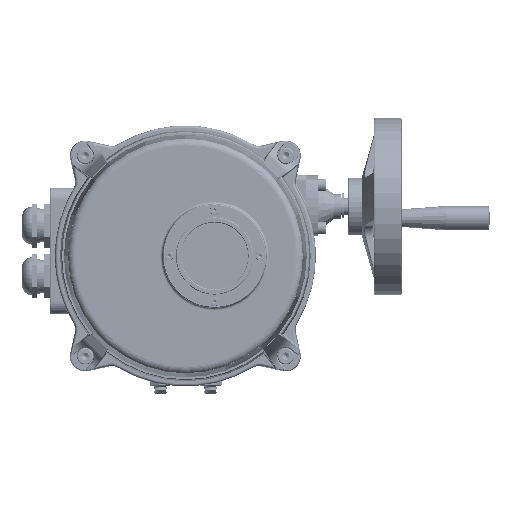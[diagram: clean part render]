
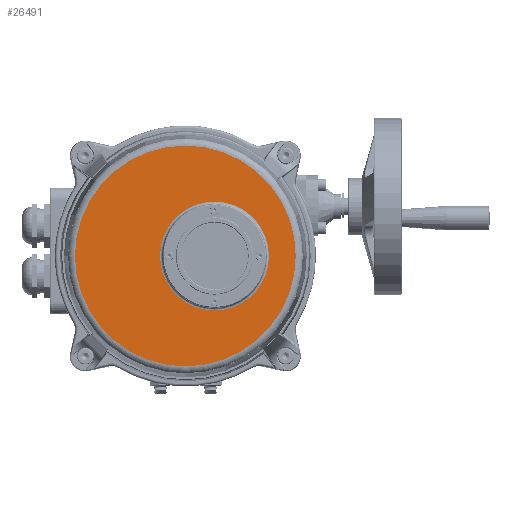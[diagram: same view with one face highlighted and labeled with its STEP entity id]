
A CAD part, front view. The second image highlights one B-rep face of the part: STEP entity #26491.
In plain terms, the highlighted planar face has unit normal (0, -1, 0) as drawn and (0, 1, 0) by its records, which use the part's own axes.
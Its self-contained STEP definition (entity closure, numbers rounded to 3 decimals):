
#370 = CARTESIAN_POINT ( 'NONE',  ( 0., 0., 0. ) ) ;
#1013 = ORIENTED_EDGE ( 'NONE', *, *, #146240, .T. ) ;
#1590 = CIRCLE ( 'NONE', #146683, 43. ) ;
#1778 = EDGE_LOOP ( 'NONE', ( #176181, #184921 ) ) ;
#18131 = EDGE_LOOP ( 'NONE', ( #113625, #1013 ) ) ;
#20685 = VERTEX_POINT ( 'NONE', #138815 ) ;
#26491 = ADVANCED_FACE ( 'NONE', ( #93079, #44108 ), #141299, .T. ) ;
#30834 = VERTEX_POINT ( 'NONE', #56739 ) ;
#30889 = VERTEX_POINT ( 'NONE', #122971 ) ;
#35939 = DIRECTION ( 'NONE',  ( 0., -1., 0. ) ) ;
#43647 = AXIS2_PLACEMENT_3D ( 'NONE', #92086, #155023, #123556 ) ;
#44108 = FACE_OUTER_BOUND ( 'NONE', #1778, .T. ) ;
#47628 = CIRCLE ( 'NONE', #79280, 43. ) ;
#47963 = EDGE_CURVE ( 'NONE', #83291, #30834, #1590, .T. ) ;
#56739 = CARTESIAN_POINT ( 'NONE',  ( 0., 0., -20. ) ) ;
#59170 = DIRECTION ( 'NONE',  ( 0., -1., 0. ) ) ;
#62695 = EDGE_CURVE ( 'NONE', #20685, #30889, #181520, .T. ) ;
#74764 = DIRECTION ( 'NONE',  ( 0., -1., 0. ) ) ;
#79049 = DIRECTION ( 'NONE',  ( 0., -1., 0. ) ) ;
#79280 = AXIS2_PLACEMENT_3D ( 'NONE', #152791, #74764, #184184 ) ;
#83291 = VERTEX_POINT ( 'NONE', #173122 ) ;
#90748 = AXIS2_PLACEMENT_3D ( 'NONE', #139820, #59170, #122734 ) ;
#92086 = CARTESIAN_POINT ( 'NONE',  ( 0., 0., 0. ) ) ;
#93079 = FACE_BOUND ( 'NONE', #18131, .T. ) ;
#95670 = CIRCLE ( 'NONE', #102981, 87.208 ) ;
#102981 = AXIS2_PLACEMENT_3D ( 'NONE', #370, #79049, #144012 ) ;
#106402 = EDGE_CURVE ( 'NONE', #30889, #20685, #95670, .T. ) ;
#113625 = ORIENTED_EDGE ( 'NONE', *, *, #47963, .T. ) ;
#122734 = DIRECTION ( 'NONE',  ( 0., 0., -1. ) ) ;
#122971 = CARTESIAN_POINT ( 'NONE',  ( 0., 0., 87.208 ) ) ;
#123556 = DIRECTION ( 'NONE',  ( 0., 0., 1. ) ) ;
#130275 = CARTESIAN_POINT ( 'NONE',  ( 0., 0., 23. ) ) ;
#138815 = CARTESIAN_POINT ( 'NONE',  ( 0., 0., -87.208 ) ) ;
#139820 = CARTESIAN_POINT ( 'NONE',  ( 0., 0., 0. ) ) ;
#141299 = PLANE ( 'NONE',  #43647 ) ;
#144012 = DIRECTION ( 'NONE',  ( 0., 0., -1. ) ) ;
#145366 = DIRECTION ( 'NONE',  ( 0., 0., 1. ) ) ;
#146240 = EDGE_CURVE ( 'NONE', #30834, #83291, #47628, .T. ) ;
#146683 = AXIS2_PLACEMENT_3D ( 'NONE', #130275, #35939, #145366 ) ;
#152791 = CARTESIAN_POINT ( 'NONE',  ( 0., 0., 23. ) ) ;
#155023 = DIRECTION ( 'NONE',  ( 0., 1., 0. ) ) ;
#173122 = CARTESIAN_POINT ( 'NONE',  ( 0., 0., 66. ) ) ;
#176181 = ORIENTED_EDGE ( 'NONE', *, *, #62695, .F. ) ;
#181520 = CIRCLE ( 'NONE', #90748, 87.208 ) ;
#184184 = DIRECTION ( 'NONE',  ( 0., 0., 1. ) ) ;
#184921 = ORIENTED_EDGE ( 'NONE', *, *, #106402, .F. ) ;
